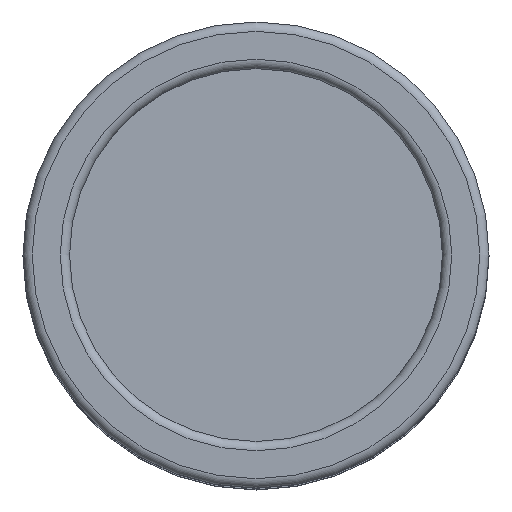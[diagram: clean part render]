
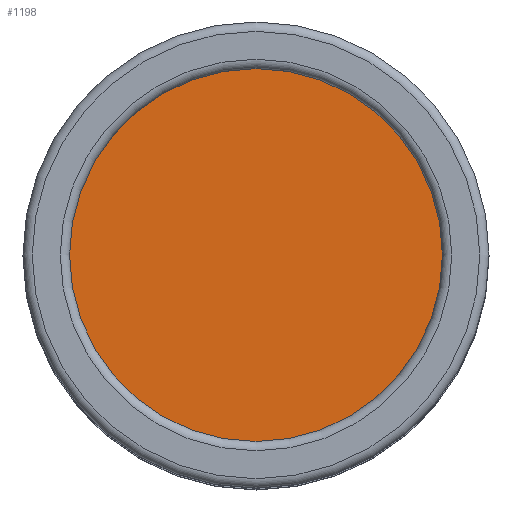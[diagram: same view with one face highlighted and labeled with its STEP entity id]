
A CAD part, top view. The second image highlights one B-rep face of the part: STEP entity #1198.
In plain terms, the highlighted planar face has unit normal (0, 0, 1).
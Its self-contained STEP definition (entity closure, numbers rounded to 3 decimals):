
#270=PLANE('',#1335);
#358=FACE_OUTER_BOUND('',#444,.T.);
#444=EDGE_LOOP('',(#1120));
#504=CIRCLE('',#1284,10.);
#608=VERTEX_POINT('',#1932);
#736=EDGE_CURVE('',#608,#608,#504,.T.);
#1120=ORIENTED_EDGE('',*,*,#736,.F.);
#1198=ADVANCED_FACE('',(#358),#270,.T.);
#1284=AXIS2_PLACEMENT_3D('',#1933,#1551,#1552);
#1335=AXIS2_PLACEMENT_3D('',#2057,#1701,#1702);
#1551=DIRECTION('center_axis',(0.,0.,-1.));
#1552=DIRECTION('ref_axis',(1.,0.,0.));
#1701=DIRECTION('center_axis',(0.,0.,1.));
#1702=DIRECTION('ref_axis',(1.,0.,0.));
#1932=CARTESIAN_POINT('',(0.,10.,29.));
#1933=CARTESIAN_POINT('Origin',(0.,0.,29.));
#2057=CARTESIAN_POINT('Origin',(0.,10.,29.));
